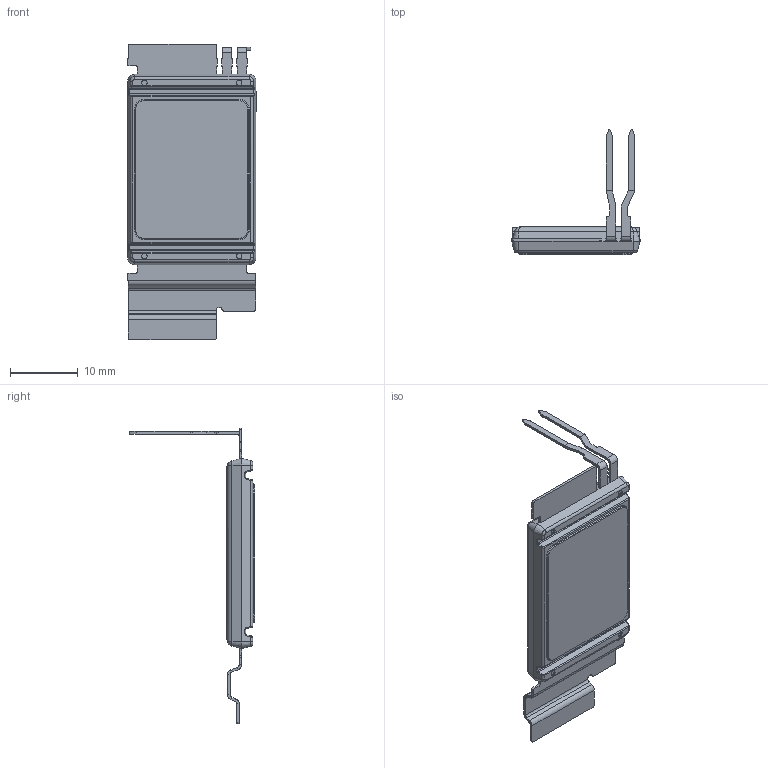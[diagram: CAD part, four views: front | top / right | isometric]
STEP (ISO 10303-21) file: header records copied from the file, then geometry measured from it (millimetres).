
FILE_DESCRIPTION (( 'STEP AP214' ), '1' );
FILE_NAME ('APM-014-004 Rev 5.STEP', '2024-05-16T01:56:57', ( '' ), ( '' ), 'SwSTEP 2.0', 'SolidWorks 2024', '' );
FILE_SCHEMA (( 'AUTOMOTIVE_DESIGN' ));
Length unit declared in the file: metre
Products named in the file (1): APM-014-004 Rev 5
Bounding box: 18.95 x 18.5 x 43.65 mm (x, y, z)
Volume: 2074.2 mm3; surface area: 2060.4 mm2
Topology: 1 solids, 1 shells, 314 faces, 783 edges, 490 vertices
Faces by surface type: plane 139, cylinder 127, cone 20, bspline 20, torus 8
Entity records: 12104 total; most frequent: CARTESIAN_POINT 4598, DIRECTION 1589, ORIENTED_EDGE 1558, EDGE_CURVE 779, AXIS2_PLACEMENT_3D 559, VERTEX_POINT 490, LINE 471, VECTOR 471
